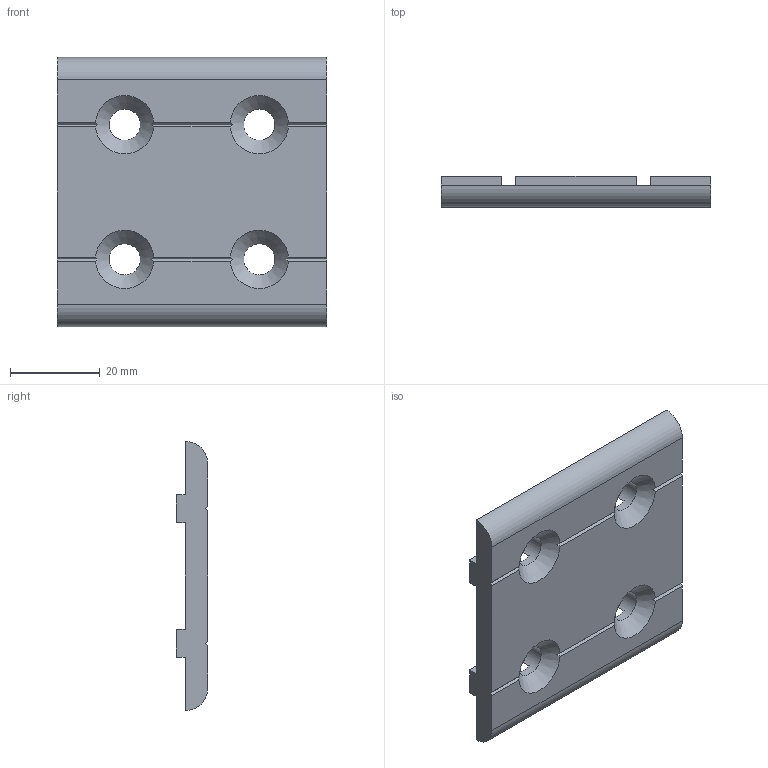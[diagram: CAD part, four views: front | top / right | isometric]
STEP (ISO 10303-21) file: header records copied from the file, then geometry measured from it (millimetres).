
FILE_DESCRIPTION(/* description */ ('Unknown'),/* implementation_level */ '2;1');
FILE_NAME(/* name */ 'AI6060D-V',/* time_stamp */ '2026-09-17T11:44:00+08:00',/* author */ ('Unknown'),/* organization */ ('Unknown'),/* preprocessor_version */ 'ST-DEVELOPER v16.7',/* originating_system */ 'DEX',/* authorisation */ $);
FILE_SCHEMA (('AUTOMOTIVE_DESIGN {1 0 10303 214 3 1 1}'));
Length unit declared in the file: millimetre
Products named in the file (1): AI6060D-V
Bounding box: 60 x 7 x 60 mm (x, y, z)
Volume: 17254.4 mm3; surface area: 8771.9 mm2
Topology: 1 solids, 1 shells, 48 faces, 158 edges, 104 vertices
Faces by surface type: plane 38, cylinder 6, cone 4
Full cylindrical faces by diameter (mm): 7 x4
Entity records: 2002 total; most frequent: CARTESIAN_POINT 335, ORIENTED_EDGE 284, DIRECTION 256, EDGE_CURVE 142, VERTEX_POINT 96, LINE 94, VECTOR 94, AXIS2_PLACEMENT_3D 81
